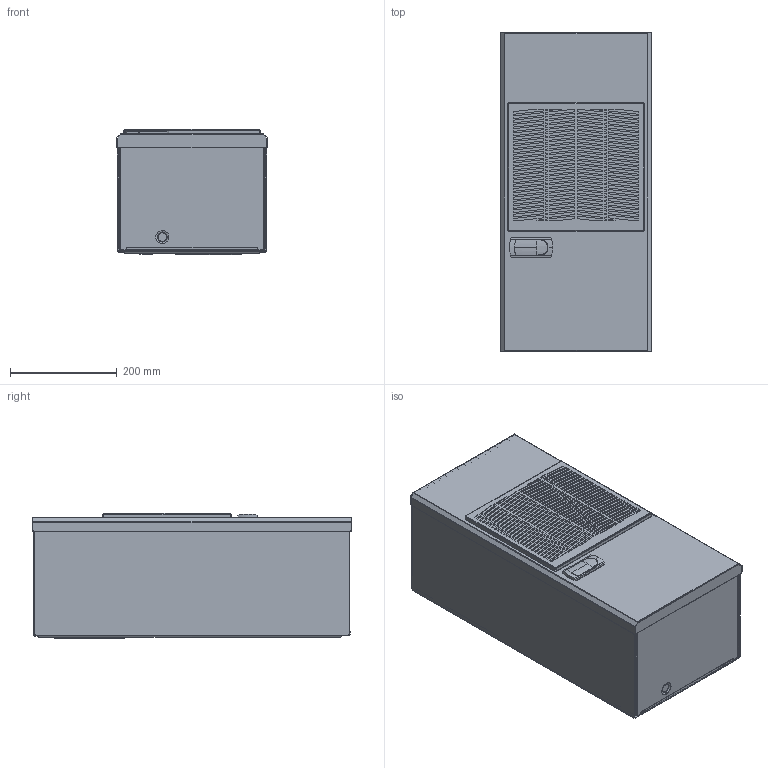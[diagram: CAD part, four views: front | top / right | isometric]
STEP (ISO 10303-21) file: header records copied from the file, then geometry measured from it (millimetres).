
FILE_DESCRIPTION(/* description */ (''),/* implementation_level */ '2;1');
FILE_NAME(/* name */ 'R5FAN05021LT_rh',/* time_stamp */ '2024-06-03T08:45:29+02:00',/* author */ (''),/* organization */ (''),/* preprocessor_version */ 'ST-DEVELOPER v16.5',/* originating_system */ 'Rhino 7.37',/* authorisation */ '');
FILE_SCHEMA (('AUTOMOTIVE_DESIGN'));
Length unit declared in the file: millimetre
Products named in the file (1): Document
Bounding box: 283 x 595.5 x 234 mm (x, y, z)
Volume: 615598.1 mm3; surface area: 1584056.6 mm2
Topology: 16 solids, 17 shells, 1194 faces, 3185 edges, 2031 vertices
Faces by surface type: plane 915, cylinder 184, bspline 95
Entity records: 41280 total; most frequent: CARTESIAN_POINT 19484, ORIENTED_EDGE 6353, EDGE_CURVE 3184, B_SPLINE_CURVE_WITH_KNOTS 2722, VERTEX_POINT 2031, EDGE_LOOP 1458, ADVANCED_FACE 1194, FACE_OUTER_BOUND 1194
